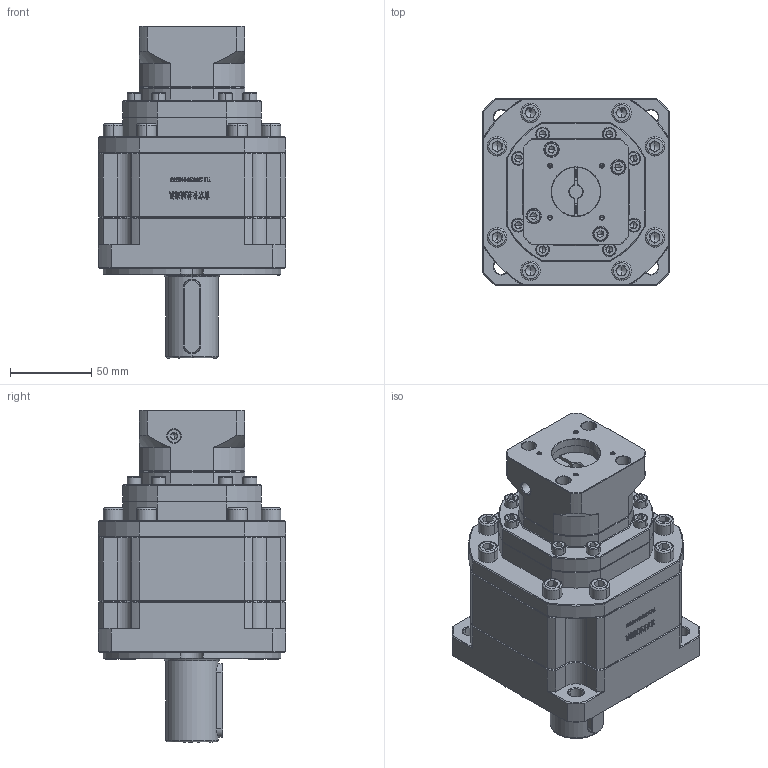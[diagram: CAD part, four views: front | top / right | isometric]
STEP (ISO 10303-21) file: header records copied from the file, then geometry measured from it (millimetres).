
FILE_DESCRIPTION (( 'STEP AP214' ), '1' );
FILE_NAME ('ZB115A-D32-L3-8-30-45-M3.step', '2023-03-03T09:56:57', ( '' ), ( 'Microsoft' ), 'SwSTEP 2.0', 'SolidWorks 2016', '' );
FILE_SCHEMA (( 'AUTOMOTIVE_DESIGN' ));
Length unit declared in the file: millimetre
Products named in the file (1): ZB115A-D32-L3-8-30-45-M3
Bounding box: 115 x 115 x 204 mm (x, y, z)
Volume: 1318068.1 mm3; surface area: 122992.6 mm2
Topology: 7 solids, 7 shells, 2280 faces, 5914 edges, 3743 vertices
Faces by surface type: plane 1126, cylinder 442, cone 345, bspline 345, torus 22
Entity records: 115031 total; most frequent: CARTESIAN_POINT 37031, ORIENTED_EDGE 11704, DIRECTION 9809, EDGE_CURVE 5852, VERTEX_POINT 3743, VECTOR 3667, LINE 3667, AXIS2_PLACEMENT_3D 3071
